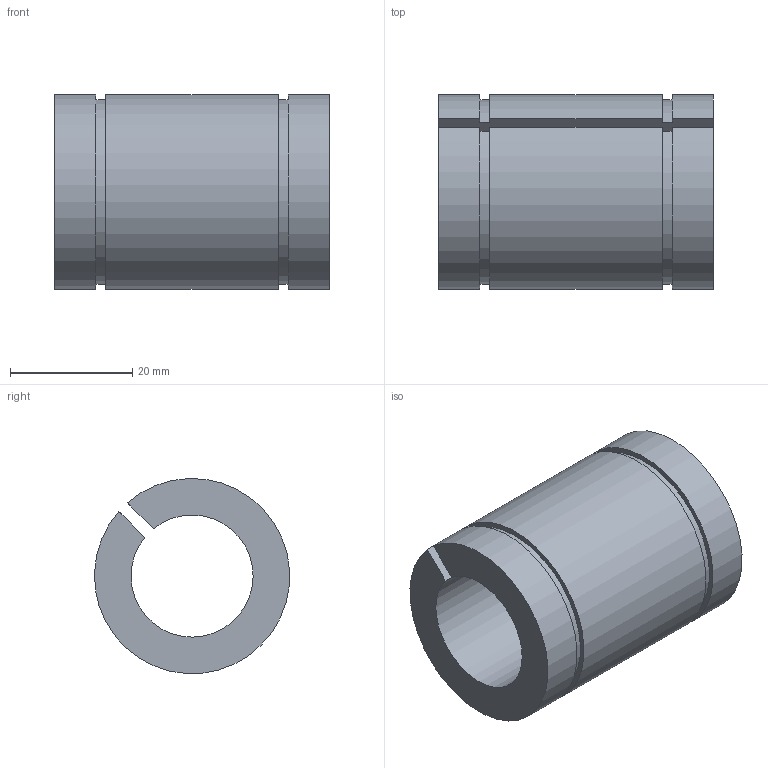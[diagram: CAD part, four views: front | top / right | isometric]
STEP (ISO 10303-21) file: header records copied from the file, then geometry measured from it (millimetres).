
FILE_DESCRIPTION( ( 'STEP AP203' ), '1' );
FILE_NAME( 'p:/temp/worker_91/temp/exporttempdir_4772_884_ybsKM/format_0/LME20UU-AJ.stp', '2020-04-29T03:21:21', ( 'License CC BY-ND 4.0' ), ( 'CADENAS' ), ' ', 'PARTsolutions', ' ' );
FILE_SCHEMA( ( 'CONFIG_CONTROL_DESIGN' ) );
Length unit declared in the file: millimetre
Products named in the file (1): _LME20UU-AJ
Bounding box: 45 x 31.95 x 31.95 mm (x, y, z)
Volume: 21252.7 mm3; surface area: 8972.3 mm2
Topology: 1 solids, 1 shells, 14 faces, 36 edges, 24 vertices
Faces by surface type: plane 8, cylinder 6
Entity records: 476 total; most frequent: DIRECTION 78, CARTESIAN_POINT 75, ORIENTED_EDGE 72, EDGE_CURVE 36, AXIS2_PLACEMENT_3D 27, VERTEX_POINT 24, LINE 24, VECTOR 24
